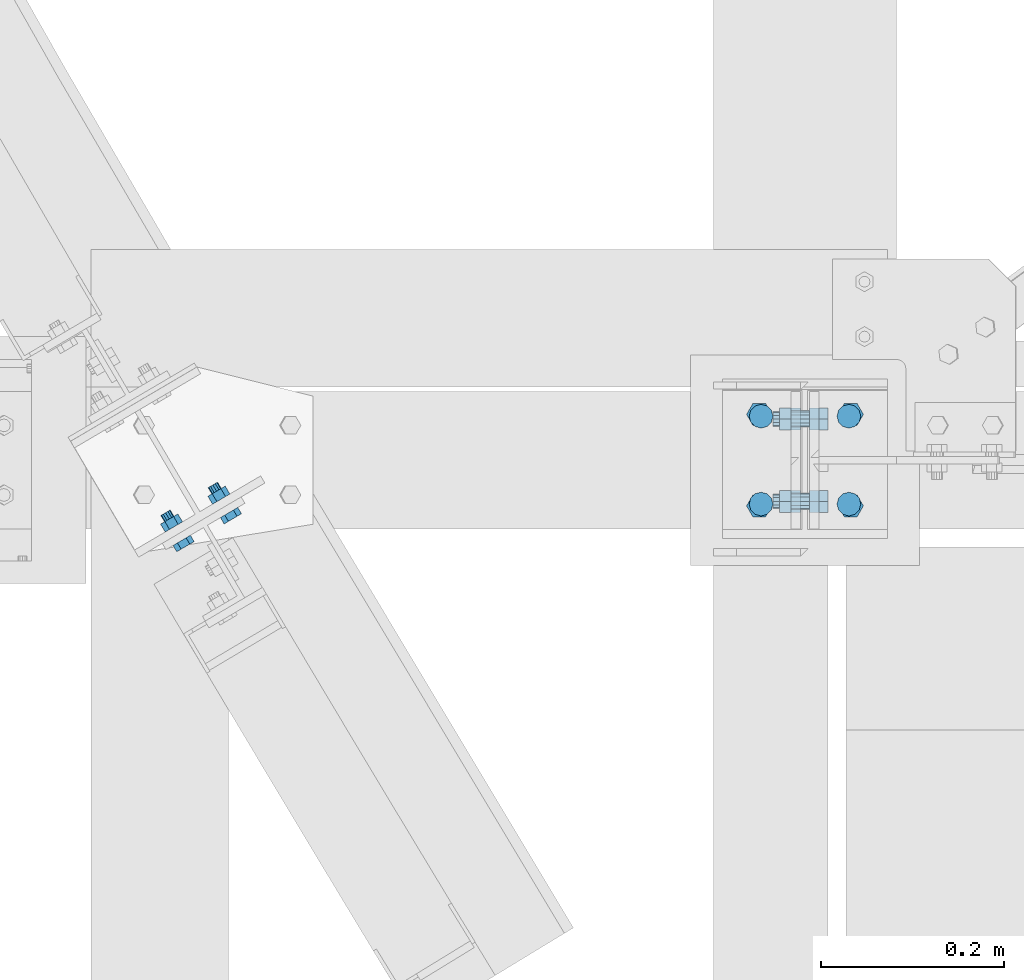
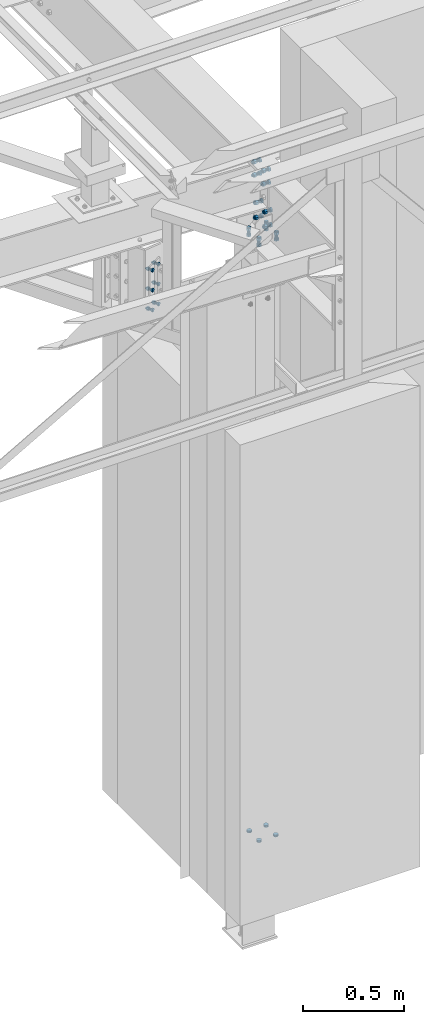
# One storey, part 14 of 3134: 7 mechanical fasteners, 3 elements without a shape of their own.
"""IFC2X3 building model written with IfcOpenShell, lengths in millimetres."""

from ifc_helpers import new_model, si_unit, frame, origin_with_axes, place, context, subcontext, project, spatial, faceted_brep, source, transform, mapped, material, type_object, element, aggregate, save


model = new_model("IFC2X3")

# Units and contexts
model_context = context("Model", 3, precision=1e-05, world=origin_with_axes())
body_context = subcontext(model_context, "Body", "Model", "MODEL_VIEW")
ifc_project = project(units=[si_unit("LENGTHUNIT", "METRE", prefix="MILLI"), si_unit("AREAUNIT", "SQUARE_METRE"), si_unit("VOLUMEUNIT", "CUBIC_METRE"), si_unit("MASSUNIT", "GRAM", prefix="KILO"), si_unit("TIMEUNIT", "SECOND"), si_unit("PLANEANGLEUNIT", "RADIAN"), si_unit("SOLIDANGLEUNIT", "STERADIAN"), si_unit("THERMODYNAMICTEMPERATUREUNIT", "DEGREE_CELSIUS"), si_unit("LUMINOUSINTENSITYUNIT", "LUMEN")], contexts=[model_context])

# Site, building, storey
site_placement = place(None, origin_with_axes())
site = spatial("IfcSite", under=ifc_project, at=site_placement, CompositionType="ELEMENT")
building_placement = place(site_placement, origin_with_axes())
building = spatial("IfcBuilding", under=site, at=building_placement, Name="Undefined", CompositionType="ELEMENT")
storey_placement = place(building_placement, origin_with_axes())
storey = spatial("IfcBuildingStorey", under=building, at=storey_placement, Name="Undefined", CompositionType="ELEMENT", Elevation=0.0)

# Assembly, mechanical fastener
assembly_1_placement = place(storey_placement, origin_with_axes())
assembly_1 = element("IfcElementAssembly", 1, at=assembly_1_placement, inside=storey, Name="HEA180", AssemblyPlace="NOTDEFINED", PredefinedType="RIGID_FRAME")
ifc_material = material(Name="8.8")
mechanical_fastener_type = type_object("IfcMechanicalFastenerType", Name="Bolt assembly")
shared_shape_1 = source(origin_with_axes(), body_context, "Body", "Brep", [
    faceted_brep([(13.0, 0.0, 0.0), (11.2583302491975, 0.0, 6.50000000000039), (6.49999999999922, 0.0, 11.2583302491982), (-1.34723677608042e-12, 0.0, 13.0), (-6.50000000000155, 0.0, 11.2583302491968), (-11.2583302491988, 0.0, 6.49999999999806), (-13.0, 0.0, -2.69447355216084e-12), (-11.2583302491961, 0.0, -6.50000000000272), (-6.4999999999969, 0.0, -11.2583302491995), (4.02727742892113e-12, 0.0, -13.0), (6.50000000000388, 0.0, -11.2583302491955), (11.2583302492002, 0.0, -6.49999999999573), (11.2583302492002, 12.1, -6.49999999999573), (6.50000000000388, 12.1, -11.2583302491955), (4.02727742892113e-12, 12.1, -13.0), (-6.4999999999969, 12.1, -11.2583302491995), (-11.2583302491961, 12.1, -6.50000000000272), (-13.0, 12.1, -2.69447355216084e-12), (-11.2583302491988, 12.1, 6.49999999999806), (-6.50000000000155, 12.1, 11.2583302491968), (-1.34723677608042e-12, 12.1, 13.0), (6.49999999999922, 12.1, 11.2583302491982), (11.2583302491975, 12.1, 6.50000000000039), (13.0, 12.1, 0.0)], [[[0, 1, 2, 3, 4, 5, 6, 7, 8, 9, 10, 11]], [[12, 13, 14, 15, 16, 17, 18, 19, 20, 21, 22, 23]], [[0, 23, 22, 1]], [[1, 22, 21, 2]], [[2, 21, 20, 3]], [[3, 20, 19, 4]], [[4, 19, 18, 5]], [[5, 18, 17, 6]], [[6, 17, 16, 7]], [[7, 16, 15, 8]], [[8, 15, 14, 9]], [[9, 14, 13, 10]], [[10, 13, 12, 11]], [[11, 12, 23, 0]]]),
])
mechanical_fastener_1_placement = place(assembly_1_placement, frame((9295.0, 10882.0, -400.0), z_axis=(1.0, 0.0, 0.0), x_axis=(0.0, 1.0, 0.0)))
mechanical_fastener_1 = element("IfcMechanicalFastener", 2, at=mechanical_fastener_1_placement, type_object=mechanical_fastener_type, material=ifc_material, Name="Bolt assembly", NominalDiameter=24.0, NominalLength=12.0, context=body_context, shape_type="MappedRepresentation", body=[
    mapped(shared_shape_1, transform((0.0, 0.0, -48.0))),
    mapped(shared_shape_1, transform((96.0, 0.0, -48.0))),
    mapped(shared_shape_1, transform((0.0, 0.0, 48.0))),
    mapped(shared_shape_1, transform((96.0, 0.0, 48.0))),
])

assembly_2_placement = place(storey_placement, origin_with_axes())
assembly_2 = element("IfcElementAssembly", 3, at=assembly_2_placement, inside=storey, Name="HEA160", AssemblyPlace="NOTDEFINED", PredefinedType="RIGID_FRAME")
shared_shape_2 = source(origin_with_axes(), body_context, "Body", "Brep", [
    faceted_brep([(10.9696551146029, -16.0, 0.0), (5.48482755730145, -16.0, 9.5), (-5.48482755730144, -16.0, 9.5), (-10.9696551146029, -16.0, 1.34339530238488e-15), (-5.48482755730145, -16.0, -9.5), (5.48482755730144, -16.0, -9.50000000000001), (5.48482755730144, -8.0, -9.50000000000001), (-5.48482755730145, -8.0, -9.5), (-10.9696551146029, -8.0, 1.34339530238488e-15), (-5.48482755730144, -8.0, 9.5), (5.48482755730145, -8.0, 9.5), (10.9696551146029, -8.0, 0.0), (6.0, -8.0, 0.0), (5.19615242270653, -8.0, 3.00000000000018), (2.99999999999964, -8.0, 5.19615242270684), (-6.21801588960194e-13, -8.0, 6.0), (-3.00000000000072, -8.0, 5.19615242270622), (-5.19615242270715, -8.0, 2.9999999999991), (-6.0, -8.0, -1.24360317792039e-12), (-5.19615242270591, -8.0, -3.00000000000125), (-2.99999999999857, -8.0, -5.19615242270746), (1.85874342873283e-12, -8.0, -6.0), (3.00000000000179, -8.0, -5.1961524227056), (5.19615242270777, -8.0, -2.99999999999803), (5.19615242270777, 27.0, -2.99999999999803), (3.00000000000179, 27.0, -5.1961524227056), (1.85874342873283e-12, 27.0, -6.0), (-2.99999999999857, 27.0, -5.19615242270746), (-5.19615242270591, 27.0, -3.00000000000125), (-6.0, 27.0, -1.24360317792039e-12), (-5.19615242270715, 27.0, 2.9999999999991), (-3.00000000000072, 27.0, 5.19615242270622), (-6.21801588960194e-13, 27.0, 6.0), (2.99999999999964, 27.0, 5.19615242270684), (5.19615242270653, 27.0, 3.00000000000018), (6.0, 27.0, 0.0), (10.9696551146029, 9.00000000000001, 0.0), (5.48482755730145, 9.00000000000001, 9.5), (-5.48482755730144, 9.00000000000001, 9.5), (-10.9696551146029, 9.00000000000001, 1.34339530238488e-15), (-5.48482755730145, 9.00000000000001, -9.5), (5.48482755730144, 9.00000000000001, -9.50000000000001), (5.48482755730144, 19.0, -9.50000000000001), (-5.48482755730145, 19.0, -9.5), (-10.9696551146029, 19.0, 1.34339530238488e-15), (-5.48482755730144, 19.0, 9.5), (5.48482755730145, 19.0, 9.5), (10.9696551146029, 19.0, 0.0)], [[[0, 1, 2, 3, 4, 5]], [[6, 7, 8, 9, 10, 11]], [[0, 11, 10, 1]], [[1, 10, 9, 2]], [[2, 9, 8, 3]], [[3, 8, 7, 4]], [[4, 7, 6, 5]], [[5, 6, 11, 0]], [[12, 13, 14, 15, 16, 17, 18, 19, 20, 21, 22, 23]], [[24, 25, 26, 27, 28, 29, 30, 31, 32, 33, 34, 35]], [[12, 35, 34, 13]], [[13, 34, 33, 14]], [[14, 33, 32, 15]], [[15, 32, 31, 16]], [[16, 31, 30, 17]], [[17, 30, 29, 18]], [[18, 29, 28, 19]], [[19, 28, 27, 20]], [[20, 27, 26, 21]], [[21, 26, 25, 22]], [[22, 25, 24, 23]], [[23, 24, 35, 12]], [[36, 37, 38, 39, 40, 41]], [[42, 43, 44, 45, 46, 47]], [[36, 47, 46, 37]], [[37, 46, 45, 38]], [[38, 45, 44, 39]], [[39, 44, 43, 40]], [[40, 43, 42, 41]], [[41, 42, 47, 36]]]),
    faceted_brep([(7.0, -7.9, 0.0), (6.06217782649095, -7.9, 3.50000000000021), (3.49999999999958, -7.9, 6.06217782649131), (-7.25435187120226e-13, -7.9, 7.0), (-3.50000000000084, -7.9, 6.06217782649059), (-6.06217782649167, -7.9, 3.49999999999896), (-7.0, -7.9, -1.45087037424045e-12), (-6.06217782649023, -7.9, -3.50000000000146), (-3.49999999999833, -7.9, -6.06217782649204), (2.1685340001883e-12, -7.9, -7.0), (3.50000000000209, -7.9, -6.06217782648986), (6.0621778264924, -7.9, -3.4999999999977), (6.0621778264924, 0.0999999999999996, -3.4999999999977), (3.50000000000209, 0.0999999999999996, -6.06217782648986), (2.1685340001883e-12, 0.0999999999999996, -7.0), (-3.49999999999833, 0.0999999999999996, -6.06217782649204), (-6.06217782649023, 0.0999999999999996, -3.50000000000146), (-7.0, 0.0999999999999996, -1.45087037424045e-12), (-6.06217782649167, 0.0999999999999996, 3.49999999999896), (-3.50000000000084, 0.0999999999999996, 6.06217782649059), (-7.25435187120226e-13, 0.0999999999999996, 7.0), (3.49999999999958, 0.0999999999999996, 6.06217782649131), (6.06217782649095, 0.0999999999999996, 3.50000000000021), (7.0, 0.0999999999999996, 0.0), (7.0, -0.1, 0.0), (6.06217782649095, -0.1, 3.50000000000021), (3.49999999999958, -0.1, 6.06217782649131), (-7.25435187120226e-13, -0.1, 7.0), (-3.50000000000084, -0.1, 6.06217782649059), (-6.06217782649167, -0.1, 3.49999999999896), (-7.0, -0.1, -1.45087037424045e-12), (-6.06217782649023, -0.1, -3.50000000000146), (-3.49999999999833, -0.1, -6.06217782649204), (2.1685340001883e-12, -0.1, -7.0), (3.50000000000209, -0.1, -6.06217782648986), (6.0621778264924, -0.1, -3.4999999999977), (6.0621778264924, 9.00000000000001, -3.4999999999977), (3.50000000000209, 9.00000000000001, -6.06217782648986), (2.1685340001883e-12, 9.00000000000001, -7.0), (-3.49999999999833, 9.00000000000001, -6.06217782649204), (-6.06217782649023, 9.00000000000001, -3.50000000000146), (-7.0, 9.00000000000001, -1.45087037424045e-12), (-6.06217782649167, 9.00000000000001, 3.49999999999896), (-3.50000000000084, 9.00000000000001, 6.06217782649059), (-7.25435187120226e-13, 9.00000000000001, 7.0), (3.49999999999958, 9.00000000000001, 6.06217782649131), (6.06217782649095, 9.00000000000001, 3.50000000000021), (7.0, 9.00000000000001, 0.0)], [[[0, 1, 2, 3, 4, 5, 6, 7, 8, 9, 10, 11]], [[12, 13, 14, 15, 16, 17, 18, 19, 20, 21, 22, 23]], [[0, 23, 22, 1]], [[1, 22, 21, 2]], [[2, 21, 20, 3]], [[3, 20, 19, 4]], [[4, 19, 18, 5]], [[5, 18, 17, 6]], [[6, 17, 16, 7]], [[7, 16, 15, 8]], [[8, 15, 14, 9]], [[9, 14, 13, 10]], [[10, 13, 12, 11]], [[11, 12, 23, 0]], [[24, 25, 26, 27, 28, 29, 30, 31, 32, 33, 34, 35]], [[36, 37, 38, 39, 40, 41, 42, 43, 44, 45, 46, 47]], [[24, 47, 46, 25]], [[25, 46, 45, 26]], [[26, 45, 44, 27]], [[27, 44, 43, 28]], [[28, 43, 42, 29]], [[29, 42, 41, 30]], [[30, 41, 40, 31]], [[31, 40, 39, 32]], [[32, 39, 38, 33]], [[33, 38, 37, 34]], [[34, 37, 36, 35]], [[35, 36, 47, 24]]]),
])
mechanical_fastener_2_placement = place(assembly_2_placement, frame((8609.92668661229, 10849.2769157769, 3170.0), z_axis=(0.0, 0.0, 1.0), x_axis=(0.862153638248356, 0.506646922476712, 0.0)))
mechanical_fastener_2 = element("IfcMechanicalFastener", 4, at=mechanical_fastener_2_placement, type_object=mechanical_fastener_type, material=ifc_material, Name="Bolt assembly", NominalDiameter=12.0, NominalLength=35.0, context=body_context, shape_type="MappedRepresentation", body=[
    mapped(shared_shape_2, transform((0.0, 0.0, -120.0))),
    mapped(shared_shape_2, transform((60.0000000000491, 0.0, -120.0))),
    mapped(shared_shape_2, transform((0.0, 0.0, 0.0))),
    mapped(shared_shape_2, transform((59.9999999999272, 0.0, 5.40239852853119e-10))),
    mapped(shared_shape_2, transform((0.0, 0.0, 120.0))),
    mapped(shared_shape_2, transform((60.0000000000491, 0.0, 120.0))),
])
aggregate(assembly_2, [mechanical_fastener_2])

# Mechanical fastener
shared_shape_3 = source(origin_with_axes(), body_context, "Body", "Brep", [
    faceted_brep([(13.856406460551, -10.0, 0.0), (6.92820323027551, -10.0, 12.0), (-6.92820323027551, -10.0, 12.0), (-13.856406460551, -10.0, 1.69692038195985e-15), (-6.92820323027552, -10.0, -12.0), (6.9282032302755, -10.0, -12.0), (6.9282032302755, 0.0, -12.0), (-6.92820323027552, 0.0, -12.0), (-13.856406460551, 0.0, 1.69692038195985e-15), (-6.92820323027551, 0.0, 12.0), (6.92820323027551, 0.0, 12.0), (13.856406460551, 0.0, 0.0), (8.0, 0.0, 0.0), (6.92820323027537, 0.0, 4.00000000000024), (3.99999999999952, 0.0, 6.92820323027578), (-8.29068785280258e-13, 0.0, 8.0), (-4.00000000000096, 0.0, 6.92820323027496), (-6.9282032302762, 0.0, 3.99999999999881), (-8.0, 0.0, -1.65813757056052e-12), (-6.92820323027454, 0.0, -4.00000000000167), (-3.99999999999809, 0.0, -6.92820323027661), (2.47832457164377e-12, 0.0, -8.0), (4.00000000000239, 0.0, -6.92820323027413), (6.92820323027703, 0.0, -3.99999999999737), (6.92820323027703, 45.0, -3.99999999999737), (4.00000000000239, 45.0, -6.92820323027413), (2.47832457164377e-12, 45.0, -8.0), (-3.99999999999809, 45.0, -6.92820323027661), (-6.92820323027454, 45.0, -4.00000000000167), (-8.0, 45.0, -1.65813757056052e-12), (-6.9282032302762, 45.0, 3.99999999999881), (-4.00000000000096, 45.0, 6.92820323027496), (-8.29068785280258e-13, 45.0, 8.0), (3.99999999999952, 45.0, 6.92820323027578), (6.92820323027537, 45.0, 4.00000000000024), (8.0, 45.0, 0.0), (13.856406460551, 27.9999995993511, 0.0), (6.92820323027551, 27.9999995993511, 12.0), (-6.92820323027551, 27.9999995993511, 12.0), (-13.856406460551, 27.9999995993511, 1.69692038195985e-15), (-6.92820323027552, 27.9999995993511, -12.0), (6.9282032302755, 27.9999995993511, -12.0), (6.9282032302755, 41.0, -12.0), (-6.92820323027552, 41.0, -12.0), (-13.856406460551, 41.0, 1.69692038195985e-15), (-6.92820323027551, 41.0, 12.0), (6.92820323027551, 41.0, 12.0), (13.856406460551, 41.0, 0.0)], [[[0, 1, 2, 3, 4, 5]], [[6, 7, 8, 9, 10, 11]], [[0, 11, 10, 1]], [[1, 10, 9, 2]], [[2, 9, 8, 3]], [[3, 8, 7, 4]], [[4, 7, 6, 5]], [[5, 6, 11, 0]], [[12, 13, 14, 15, 16, 17, 18, 19, 20, 21, 22, 23]], [[24, 25, 26, 27, 28, 29, 30, 31, 32, 33, 34, 35]], [[12, 35, 34, 13]], [[13, 34, 33, 14]], [[14, 33, 32, 15]], [[15, 32, 31, 16]], [[16, 31, 30, 17]], [[17, 30, 29, 18]], [[18, 29, 28, 19]], [[19, 28, 27, 20]], [[20, 27, 26, 21]], [[21, 26, 25, 22]], [[22, 25, 24, 23]], [[23, 24, 35, 12]], [[36, 37, 38, 39, 40, 41]], [[42, 43, 44, 45, 46, 47]], [[36, 47, 46, 37]], [[37, 46, 45, 38]], [[38, 45, 44, 39]], [[39, 44, 43, 40]], [[40, 43, 42, 41]], [[41, 42, 47, 36]]]),
    faceted_brep([(9.0, 11.9, 0.0), (7.79422863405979, 11.9, 4.50000000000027), (4.49999999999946, 11.9, 7.79422863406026), (-9.3270238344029e-13, 11.9, 9.0), (-4.50000000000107, 11.9, 7.79422863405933), (-7.79422863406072, 11.9, 4.49999999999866), (-9.0, 11.9, -1.86540476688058e-12), (-7.79422863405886, 11.9, -4.50000000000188), (-4.49999999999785, 11.9, -7.79422863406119), (2.78811514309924e-12, 11.9, -9.0), (4.50000000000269, 11.9, -7.7942286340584), (7.79422863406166, 11.9, -4.49999999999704), (7.79422863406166, 28.0, -4.49999999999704), (4.50000000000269, 28.0, -7.7942286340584), (2.78811514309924e-12, 28.0, -9.0), (-4.49999999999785, 28.0, -7.79422863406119), (-7.79422863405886, 28.0, -4.50000000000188), (-9.0, 28.0, -1.86540476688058e-12), (-7.79422863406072, 28.0, 4.49999999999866), (-4.50000000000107, 28.0, 7.79422863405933), (-9.3270238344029e-13, 28.0, 9.0), (4.49999999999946, 28.0, 7.79422863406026), (7.79422863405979, 28.0, 4.50000000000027), (9.0, 28.0, 0.0), (9.0, 0.100000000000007, 0.0), (7.79422863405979, 0.100000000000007, 4.50000000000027), (4.49999999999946, 0.100000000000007, 7.79422863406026), (-9.3270238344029e-13, 0.100000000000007, 9.0), (-4.50000000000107, 0.100000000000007, 7.79422863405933), (-7.79422863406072, 0.100000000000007, 4.49999999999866), (-9.0, 0.100000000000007, -1.86540476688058e-12), (-7.79422863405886, 0.100000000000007, -4.50000000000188), (-4.49999999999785, 0.100000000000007, -7.79422863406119), (2.78811514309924e-12, 0.100000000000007, -9.0), (4.50000000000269, 0.100000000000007, -7.7942286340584), (7.79422863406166, 0.100000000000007, -4.49999999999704), (7.79422863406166, 12.1, -4.49999999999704), (4.50000000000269, 12.1, -7.7942286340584), (2.78811514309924e-12, 12.1, -9.0), (-4.49999999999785, 12.1, -7.79422863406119), (-7.79422863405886, 12.1, -4.50000000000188), (-9.0, 12.1, -1.86540476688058e-12), (-7.79422863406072, 12.1, 4.49999999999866), (-4.50000000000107, 12.1, 7.79422863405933), (-9.3270238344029e-13, 12.1, 9.0), (4.49999999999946, 12.1, 7.79422863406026), (7.79422863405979, 12.1, 4.50000000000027), (9.0, 12.1, 0.0)], [[[0, 1, 2, 3, 4, 5, 6, 7, 8, 9, 10, 11]], [[12, 13, 14, 15, 16, 17, 18, 19, 20, 21, 22, 23]], [[0, 23, 22, 1]], [[1, 22, 21, 2]], [[2, 21, 20, 3]], [[3, 20, 19, 4]], [[4, 19, 18, 5]], [[5, 18, 17, 6]], [[6, 17, 16, 7]], [[7, 16, 15, 8]], [[8, 15, 14, 9]], [[9, 14, 13, 10]], [[10, 13, 12, 11]], [[11, 12, 23, 0]], [[24, 25, 26, 27, 28, 29, 30, 31, 32, 33, 34, 35]], [[36, 37, 38, 39, 40, 41, 42, 43, 44, 45, 46, 47]], [[24, 47, 46, 25]], [[25, 46, 45, 26]], [[26, 45, 44, 27]], [[27, 44, 43, 28]], [[28, 43, 42, 29]], [[29, 42, 41, 30]], [[30, 41, 40, 31]], [[31, 40, 39, 32]], [[32, 39, 38, 33]], [[33, 38, 37, 34]], [[34, 37, 36, 35]], [[35, 36, 47, 24]]]),
])
mechanical_fastener_3_placement = place(assembly_1_placement, frame((9345.0, 10930.0, 3202.67), z_axis=(0.0, 1.0, 0.0), x_axis=(-1.0, 0.0, 0.0)))
mechanical_fastener_3 = element("IfcMechanicalFastener", 5, at=mechanical_fastener_3_placement, type_object=mechanical_fastener_type, material=ifc_material, Name="Bolt assembly", NominalDiameter=16.0, NominalLength=45.0, context=body_context, shape_type="MappedRepresentation", body=[
    mapped(shared_shape_3, transform((0.0, 0.0, -50.0))),
    mapped(shared_shape_3, transform((100.0, 0.0, -50.0))),
    mapped(shared_shape_3, transform((0.0, 0.0, 50.0))),
    mapped(shared_shape_3, transform((100.0, 0.0, 50.0))),
])

aggregate(assembly_1, [mechanical_fastener_3, mechanical_fastener_1])

# Assembly, mechanical fasteners
assembly_3_placement = place(storey_placement, origin_with_axes())
assembly_3 = element("IfcElementAssembly", 6, at=assembly_3_placement, inside=storey, Name="IPE500", AssemblyPlace="NOTDEFINED", PredefinedType="RIGID_FRAME")
shared_shape_4 = source(origin_with_axes(), body_context, "Body", "Brep", [
    faceted_brep([(13.856406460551, 0.0, 0.0), (6.92820323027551, 0.0, 12.0), (-6.92820323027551, 0.0, 12.0), (-13.856406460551, 0.0, 1.69692038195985e-15), (-6.92820323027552, 0.0, -12.0), (6.9282032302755, 0.0, -12.0), (6.9282032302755, 9.99999995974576, -12.0), (-6.92820323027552, 9.99999995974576, -12.0), (-13.856406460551, 9.99999995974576, 1.69692038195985e-15), (-6.92820323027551, 9.99999995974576, 12.0), (6.92820323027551, 9.99999995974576, 12.0), (13.856406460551, 9.99999995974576, 0.0), (8.0, 9.99999995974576, 0.0), (6.92820323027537, 9.99999995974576, 4.00000000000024), (3.99999999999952, 9.99999995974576, 6.92820323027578), (-8.29068785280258e-13, 9.99999995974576, 8.0), (-4.00000000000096, 9.99999995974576, 6.92820323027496), (-6.9282032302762, 9.99999995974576, 3.99999999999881), (-8.0, 9.99999995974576, -1.65813757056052e-12), (-6.92820323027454, 9.99999995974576, -4.00000000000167), (-3.99999999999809, 9.99999995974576, -6.92820323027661), (2.47832457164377e-12, 9.99999995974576, -8.0), (4.00000000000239, 9.99999995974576, -6.92820323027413), (6.92820323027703, 9.99999995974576, -3.99999999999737), (6.92820323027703, 49.9999999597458, -3.99999999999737), (4.00000000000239, 49.9999999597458, -6.92820323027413), (2.47832457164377e-12, 49.9999999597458, -8.0), (-3.99999999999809, 49.9999999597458, -6.92820323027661), (-6.92820323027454, 49.9999999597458, -4.00000000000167), (-8.0, 49.9999999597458, -1.65813757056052e-12), (-6.9282032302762, 49.9999999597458, 3.99999999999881), (-4.00000000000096, 49.9999999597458, 6.92820323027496), (-8.29068785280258e-13, 49.9999999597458, 8.0), (3.99999999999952, 49.9999999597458, 6.92820323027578), (6.92820323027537, 49.9999999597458, 4.00000000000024), (8.0, 49.9999999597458, 0.0), (13.856406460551, 30.1999997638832, 0.0), (6.92820323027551, 30.1999997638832, 12.0), (-6.92820323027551, 30.1999997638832, 12.0), (-13.856406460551, 30.1999997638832, 1.69692038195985e-15), (-6.92820323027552, 30.1999997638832, -12.0), (6.9282032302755, 30.1999997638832, -12.0), (6.9282032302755, 43.1999997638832, -12.0), (-6.92820323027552, 43.1999997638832, -12.0), (-13.856406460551, 43.1999997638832, 1.69692038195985e-15), (-6.92820323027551, 43.1999997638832, 12.0), (6.92820323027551, 43.1999997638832, 12.0), (13.856406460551, 43.1999997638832, 0.0)], [[[0, 1, 2, 3, 4, 5]], [[6, 7, 8, 9, 10, 11]], [[0, 11, 10, 1]], [[1, 10, 9, 2]], [[2, 9, 8, 3]], [[3, 8, 7, 4]], [[4, 7, 6, 5]], [[5, 6, 11, 0]], [[12, 13, 14, 15, 16, 17, 18, 19, 20, 21, 22, 23]], [[24, 25, 26, 27, 28, 29, 30, 31, 32, 33, 34, 35]], [[12, 35, 34, 13]], [[13, 34, 33, 14]], [[14, 33, 32, 15]], [[15, 32, 31, 16]], [[16, 31, 30, 17]], [[17, 30, 29, 18]], [[18, 29, 28, 19]], [[19, 28, 27, 20]], [[20, 27, 26, 21]], [[21, 26, 25, 22]], [[22, 25, 24, 23]], [[23, 24, 35, 12]], [[36, 37, 38, 39, 40, 41]], [[42, 43, 44, 45, 46, 47]], [[36, 47, 46, 37]], [[37, 46, 45, 38]], [[38, 45, 44, 39]], [[39, 44, 43, 40]], [[40, 43, 42, 41]], [[41, 42, 47, 36]]]),
    faceted_brep([(9.0, 20.0999997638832, 0.0), (7.79422863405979, 20.0999997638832, 4.50000000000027), (4.49999999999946, 20.0999997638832, 7.79422863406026), (-9.3270238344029e-13, 20.0999997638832, 9.0), (-4.50000000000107, 20.0999997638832, 7.79422863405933), (-7.79422863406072, 20.0999997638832, 4.49999999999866), (-9.0, 20.0999997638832, -1.86540476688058e-12), (-7.79422863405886, 20.0999997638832, -4.50000000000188), (-4.49999999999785, 20.0999997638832, -7.79422863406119), (2.78811514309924e-12, 20.0999997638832, -9.0), (4.50000000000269, 20.0999997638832, -7.7942286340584), (7.79422863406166, 20.0999997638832, -4.49999999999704), (7.79422863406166, 30.1999997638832, -4.49999999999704), (4.50000000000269, 30.1999997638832, -7.7942286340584), (2.78811514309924e-12, 30.1999997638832, -9.0), (-4.49999999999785, 30.1999997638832, -7.79422863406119), (-7.79422863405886, 30.1999997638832, -4.50000000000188), (-9.0, 30.1999997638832, -1.86540476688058e-12), (-7.79422863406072, 30.1999997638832, 4.49999999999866), (-4.50000000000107, 30.1999997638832, 7.79422863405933), (-9.3270238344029e-13, 30.1999997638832, 9.0), (4.49999999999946, 30.1999997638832, 7.79422863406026), (7.79422863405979, 30.1999997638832, 4.50000000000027), (9.0, 30.1999997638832, 0.0), (9.0, 10.1000023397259, 0.0), (7.79422863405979, 10.1000023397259, 4.50000000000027), (4.49999999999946, 10.1000023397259, 7.79422863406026), (-9.3270238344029e-13, 10.1000023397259, 9.0), (-4.50000000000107, 10.1000023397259, 7.79422863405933), (-7.79422863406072, 10.1000023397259, 4.49999999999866), (-9.0, 10.1000023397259, -1.86540476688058e-12), (-7.79422863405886, 10.1000023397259, -4.50000000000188), (-4.49999999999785, 10.1000023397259, -7.79422863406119), (2.78811514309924e-12, 10.1000023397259, -9.0), (4.50000000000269, 10.1000023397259, -7.7942286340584), (7.79422863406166, 10.1000023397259, -4.49999999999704), (7.79422863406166, 20.2999997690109, -4.49999999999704), (4.50000000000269, 20.2999997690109, -7.7942286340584), (2.78811514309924e-12, 20.2999997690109, -9.0), (-4.49999999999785, 20.2999997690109, -7.79422863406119), (-7.79422863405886, 20.2999997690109, -4.50000000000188), (-9.0, 20.2999997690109, -1.86540476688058e-12), (-7.79422863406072, 20.2999997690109, 4.49999999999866), (-4.50000000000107, 20.2999997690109, 7.79422863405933), (-9.3270238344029e-13, 20.2999997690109, 9.0), (4.49999999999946, 20.2999997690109, 7.79422863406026), (7.79422863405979, 20.2999997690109, 4.50000000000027), (9.0, 20.2999997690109, 0.0)], [[[0, 1, 2, 3, 4, 5, 6, 7, 8, 9, 10, 11]], [[12, 13, 14, 15, 16, 17, 18, 19, 20, 21, 22, 23]], [[0, 23, 22, 1]], [[1, 22, 21, 2]], [[2, 21, 20, 3]], [[3, 20, 19, 4]], [[4, 19, 18, 5]], [[5, 18, 17, 6]], [[6, 17, 16, 7]], [[7, 16, 15, 8]], [[8, 15, 14, 9]], [[9, 14, 13, 10]], [[10, 13, 12, 11]], [[11, 12, 23, 0]], [[24, 25, 26, 27, 28, 29, 30, 31, 32, 33, 34, 35]], [[36, 37, 38, 39, 40, 41, 42, 43, 44, 45, 46, 47]], [[24, 47, 46, 25]], [[25, 46, 45, 26]], [[26, 45, 44, 27]], [[27, 44, 43, 28]], [[28, 43, 42, 29]], [[29, 42, 41, 30]], [[30, 41, 40, 31]], [[31, 40, 39, 32]], [[32, 39, 38, 33]], [[33, 38, 37, 34]], [[34, 37, 36, 35]], [[35, 36, 47, 24]]]),
])
mechanical_fastener_4_placement = place(assembly_3_placement, frame((9310.09999986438, 10885.0, 3631.67000001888), z_axis=(0.0, 1.0, 0.0), x_axis=(0.0, 0.0, -1.0)))
mechanical_fastener_4 = element("IfcMechanicalFastener", 7, at=mechanical_fastener_4_placement, type_object=mechanical_fastener_type, material=ifc_material, Name="Bolt assembly", NominalDiameter=16.0, NominalLength=40.0, context=body_context, shape_type="MappedRepresentation", body=[
    mapped(shared_shape_4, transform((0.0, 0.0, 0.0))),
    mapped(shared_shape_4, transform((80.0, 0.0, 0.0))),
])
mechanical_fastener_5_placement = place(assembly_3_placement, frame((9310.09999986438, 10975.0, 3631.67000001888), z_axis=(0.0, 1.0, 0.0), x_axis=(0.0, 0.0, -1.0)))
mechanical_fastener_5 = element("IfcMechanicalFastener", 8, at=mechanical_fastener_5_placement, type_object=mechanical_fastener_type, material=ifc_material, Name="Bolt assembly", NominalDiameter=16.0, NominalLength=40.0, context=body_context, shape_type="MappedRepresentation", body=[
    mapped(shared_shape_4, transform((0.0, 0.0, 0.0))),
    mapped(shared_shape_4, transform((80.0, 0.0, 0.0))),
])
shared_shape_5 = source(origin_with_axes(), body_context, "Body", "Brep", [
    faceted_brep([(13.856406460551, -10.0, 0.0), (6.92820323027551, -10.0, 12.0), (-6.92820323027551, -10.0, 12.0), (-13.856406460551, -10.0, 1.69692038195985e-15), (-6.92820323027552, -10.0, -12.0), (6.9282032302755, -10.0, -12.0), (6.9282032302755, 0.0, -12.0), (-6.92820323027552, 0.0, -12.0), (-13.856406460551, 0.0, 1.69692038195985e-15), (-6.92820323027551, 0.0, 12.0), (6.92820323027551, 0.0, 12.0), (13.856406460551, 0.0, 0.0), (8.0, 0.0, 0.0), (6.92820323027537, 0.0, 4.00000000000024), (3.99999999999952, 0.0, 6.92820323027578), (-8.29068785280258e-13, 0.0, 8.0), (-4.00000000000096, 0.0, 6.92820323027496), (-6.9282032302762, 0.0, 3.99999999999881), (-8.0, 0.0, -1.65813757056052e-12), (-6.92820323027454, 0.0, -4.00000000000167), (-3.99999999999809, 0.0, -6.92820323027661), (2.47832457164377e-12, 0.0, -8.0), (4.00000000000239, 0.0, -6.92820323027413), (6.92820323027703, 0.0, -3.99999999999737), (6.92820323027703, 40.0, -3.99999999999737), (4.00000000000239, 40.0, -6.92820323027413), (2.47832457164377e-12, 40.0, -8.0), (-3.99999999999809, 40.0, -6.92820323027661), (-6.92820323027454, 40.0, -4.00000000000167), (-8.0, 40.0, -1.65813757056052e-12), (-6.9282032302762, 40.0, 3.99999999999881), (-4.00000000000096, 40.0, 6.92820323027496), (-8.29068785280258e-13, 40.0, 8.0), (3.99999999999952, 40.0, 6.92820323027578), (6.92820323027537, 40.0, 4.00000000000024), (8.0, 40.0, 0.0), (13.856406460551, 20.1999997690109, 0.0), (6.92820323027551, 20.1999997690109, 12.0), (-6.92820323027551, 20.1999997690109, 12.0), (-13.856406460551, 20.1999997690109, 1.69692038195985e-15), (-6.92820323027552, 20.1999997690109, -12.0), (6.9282032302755, 20.1999997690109, -12.0), (6.9282032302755, 33.1999997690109, -12.0), (-6.92820323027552, 33.1999997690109, -12.0), (-13.856406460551, 33.1999997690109, 1.69692038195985e-15), (-6.92820323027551, 33.1999997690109, 12.0), (6.92820323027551, 33.1999997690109, 12.0), (13.856406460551, 33.1999997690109, 0.0)], [[[0, 1, 2, 3, 4, 5]], [[6, 7, 8, 9, 10, 11]], [[0, 11, 10, 1]], [[1, 10, 9, 2]], [[2, 9, 8, 3]], [[3, 8, 7, 4]], [[4, 7, 6, 5]], [[5, 6, 11, 0]], [[12, 13, 14, 15, 16, 17, 18, 19, 20, 21, 22, 23]], [[24, 25, 26, 27, 28, 29, 30, 31, 32, 33, 34, 35]], [[12, 35, 34, 13]], [[13, 34, 33, 14]], [[14, 33, 32, 15]], [[15, 32, 31, 16]], [[16, 31, 30, 17]], [[17, 30, 29, 18]], [[18, 29, 28, 19]], [[19, 28, 27, 20]], [[20, 27, 26, 21]], [[21, 26, 25, 22]], [[22, 25, 24, 23]], [[23, 24, 35, 12]], [[36, 37, 38, 39, 40, 41]], [[42, 43, 44, 45, 46, 47]], [[36, 47, 46, 37]], [[37, 46, 45, 38]], [[38, 45, 44, 39]], [[39, 44, 43, 40]], [[40, 43, 42, 41]], [[41, 42, 47, 36]]]),
    faceted_brep([(9.0, 0.100000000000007, 0.0), (7.79422863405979, 0.100000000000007, 4.50000000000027), (4.49999999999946, 0.100000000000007, 7.79422863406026), (-9.3270238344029e-13, 0.100000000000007, 9.0), (-4.50000000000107, 0.100000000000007, 7.79422863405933), (-7.79422863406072, 0.100000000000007, 4.49999999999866), (-9.0, 0.100000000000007, -1.86540476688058e-12), (-7.79422863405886, 0.100000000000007, -4.50000000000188), (-4.49999999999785, 0.100000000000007, -7.79422863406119), (2.78811514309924e-12, 0.100000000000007, -9.0), (4.50000000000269, 0.100000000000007, -7.7942286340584), (7.79422863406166, 0.100000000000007, -4.49999999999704), (7.79422863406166, 10.1000023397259, -4.49999999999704), (4.50000000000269, 10.1000023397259, -7.7942286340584), (2.78811514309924e-12, 10.1000023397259, -9.0), (-4.49999999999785, 10.1000023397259, -7.79422863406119), (-7.79422863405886, 10.1000023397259, -4.50000000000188), (-9.0, 10.1000023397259, -1.86540476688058e-12), (-7.79422863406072, 10.1000023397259, 4.49999999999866), (-4.50000000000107, 10.1000023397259, 7.79422863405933), (-9.3270238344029e-13, 10.1000023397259, 9.0), (4.49999999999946, 10.1000023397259, 7.79422863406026), (7.79422863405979, 10.1000023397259, 4.50000000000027), (9.0, 10.1000023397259, 0.0), (9.0, 9.89999999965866, 0.0), (7.79422863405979, 9.89999999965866, 4.50000000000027), (4.49999999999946, 9.89999999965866, 7.79422863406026), (-9.3270238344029e-13, 9.89999999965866, 9.0), (-4.50000000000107, 9.89999999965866, 7.79422863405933), (-7.79422863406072, 9.89999999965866, 4.49999999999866), (-9.0, 9.89999999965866, -1.86540476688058e-12), (-7.79422863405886, 9.89999999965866, -4.50000000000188), (-4.49999999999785, 9.89999999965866, -7.79422863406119), (2.78811514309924e-12, 9.89999999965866, -9.0), (4.50000000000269, 9.89999999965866, -7.7942286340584), (7.79422863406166, 9.89999999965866, -4.49999999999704), (7.79422863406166, 20.1999997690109, -4.49999999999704), (4.50000000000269, 20.1999997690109, -7.7942286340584), (2.78811514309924e-12, 20.1999997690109, -9.0), (-4.49999999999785, 20.1999997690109, -7.79422863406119), (-7.79422863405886, 20.1999997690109, -4.50000000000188), (-9.0, 20.1999997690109, -1.86540476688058e-12), (-7.79422863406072, 20.1999997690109, 4.49999999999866), (-4.50000000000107, 20.1999997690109, 7.79422863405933), (-9.3270238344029e-13, 20.1999997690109, 9.0), (4.49999999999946, 20.1999997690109, 7.79422863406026), (7.79422863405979, 20.1999997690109, 4.50000000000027), (9.0, 20.1999997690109, 0.0)], [[[0, 1, 2, 3, 4, 5, 6, 7, 8, 9, 10, 11]], [[12, 13, 14, 15, 16, 17, 18, 19, 20, 21, 22, 23]], [[0, 23, 22, 1]], [[1, 22, 21, 2]], [[2, 21, 20, 3]], [[3, 20, 19, 4]], [[4, 19, 18, 5]], [[5, 18, 17, 6]], [[6, 17, 16, 7]], [[7, 16, 15, 8]], [[8, 15, 14, 9]], [[9, 14, 13, 10]], [[10, 13, 12, 11]], [[11, 12, 23, 0]], [[24, 25, 26, 27, 28, 29, 30, 31, 32, 33, 34, 35]], [[36, 37, 38, 39, 40, 41, 42, 43, 44, 45, 46, 47]], [[24, 47, 46, 25]], [[25, 46, 45, 26]], [[26, 45, 44, 27]], [[27, 44, 43, 28]], [[28, 43, 42, 29]], [[29, 42, 41, 30]], [[30, 41, 40, 31]], [[31, 40, 39, 32]], [[32, 39, 38, 33]], [[33, 38, 37, 34]], [[34, 37, 36, 35]], [[35, 36, 47, 24]]]),
])
mechanical_fastener_6_placement = place(assembly_3_placement, frame((9310.09999986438, 10885.0, 3381.67000001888), z_axis=(0.0, 1.0, 0.0), x_axis=(0.0, 0.0, -1.0)))
mechanical_fastener_6 = element("IfcMechanicalFastener", 9, at=mechanical_fastener_6_placement, type_object=mechanical_fastener_type, material=ifc_material, Name="Bolt assembly", NominalDiameter=16.0, NominalLength=40.0, context=body_context, shape_type="MappedRepresentation", body=[
    mapped(shared_shape_5, transform((0.0, 0.0, 0.0))),
    mapped(shared_shape_5, transform((90.0, 0.0, 0.0))),
])
mechanical_fastener_7_placement = place(assembly_3_placement, frame((9310.09999986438, 10975.0, 3381.67000001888), z_axis=(0.0, 1.0, 0.0), x_axis=(0.0, 0.0, -1.0)))
mechanical_fastener_7 = element("IfcMechanicalFastener", 10, at=mechanical_fastener_7_placement, type_object=mechanical_fastener_type, material=ifc_material, Name="Bolt assembly", NominalDiameter=16.0, NominalLength=40.0, context=body_context, shape_type="MappedRepresentation", body=[
    mapped(shared_shape_5, transform((0.0, 0.0, 0.0))),
    mapped(shared_shape_5, transform((90.0, 0.0, 0.0))),
])
aggregate(assembly_3, [mechanical_fastener_4, mechanical_fastener_5, mechanical_fastener_6, mechanical_fastener_7])

save(model, "model.ifc")
